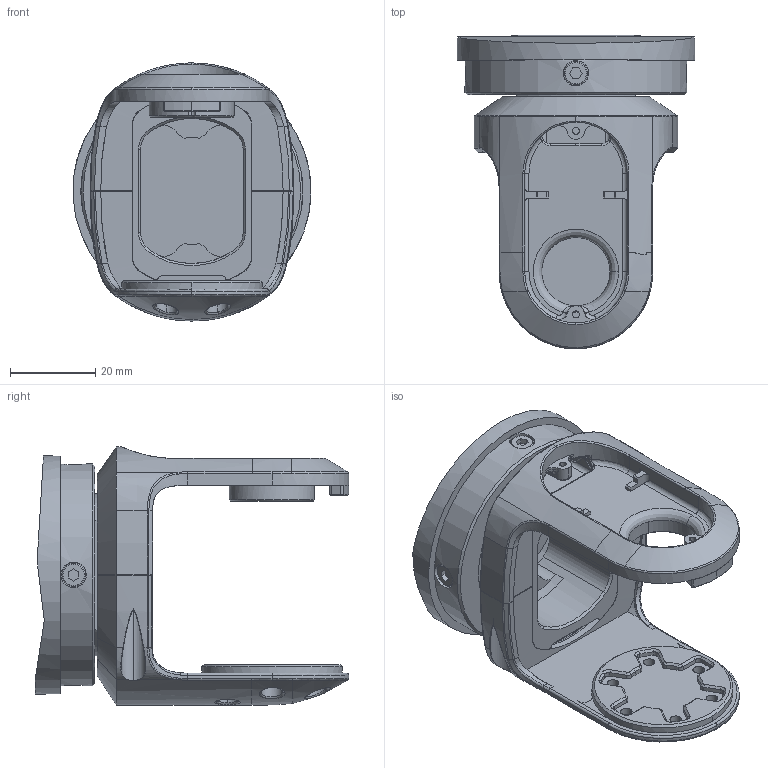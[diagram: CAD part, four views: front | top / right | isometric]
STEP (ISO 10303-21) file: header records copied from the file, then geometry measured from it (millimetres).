
FILE_DESCRIPTION (( 'STEP AP203' ), '1' );
FILE_NAME ('G1よ耦唳C藺傷蚾饜芞.STEP', '2024-11-27T06:54:19', ( 'Opium' ), ( 'YC.TEC' ), 'SwSTEP 2.0', 'SolidWorks 2023', '' );
FILE_SCHEMA (( 'CONFIG_CONTROL_DESIGN' ));
Length unit declared in the file: millimetre
Products named in the file (6): G1旗舰版C末端抱箍二_默认; M3螺钉长度10mm_默认; G1旗舰版C末端执行器(示意)_默认; G1旗舰版C末端装配图; G1旗舰版C末端法兰块_默认; G1旗舰版C末端抱箍一_默认
Assembly tree (10 placements, depth 2):
  G1旗舰版C末端装配图
    G1旗舰版C末端法兰块_默认
    G1旗舰版C末端抱箍一_默认
    G1旗舰版C末端抱箍二_默认
    G1旗舰版C末端执行器(示意)_默认
    M3螺钉长度10mm_默认  x6
Bounding box: 55.76 x 73.5 x 60.49 mm (x, y, z)
Volume: 48612.4 mm3; surface area: 31402.7 mm2
Topology: 10 solids, 12 shells, 942 faces, 2350 edges, 1438 vertices
Faces by surface type: bspline 349, cylinder 285, plane 218, torus 48, cone 42
Full cylindrical faces by diameter (mm): 2.5 x4, 3 x6, 3.4 x4, 5.5 x6, 6 x4, 37.98 x1, 38 x1, 52 x1, 55.8 x1
Entity records: 47281 total; most frequent: CARTESIAN_POINT 30338, ORIENTED_EDGE 4278, EDGE_CURVE 2139, DIRECTION 2084, VERTEX_POINT 1331, B_SPLINE_CURVE_WITH_KNOTS 1137, EDGE_LOOP 954, AXIS2_PLACEMENT_3D 895
